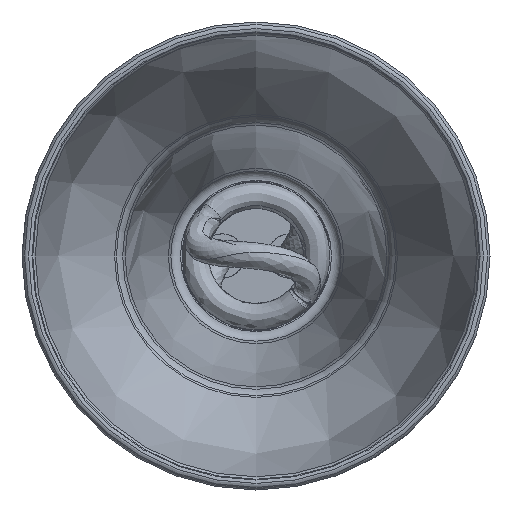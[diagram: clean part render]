
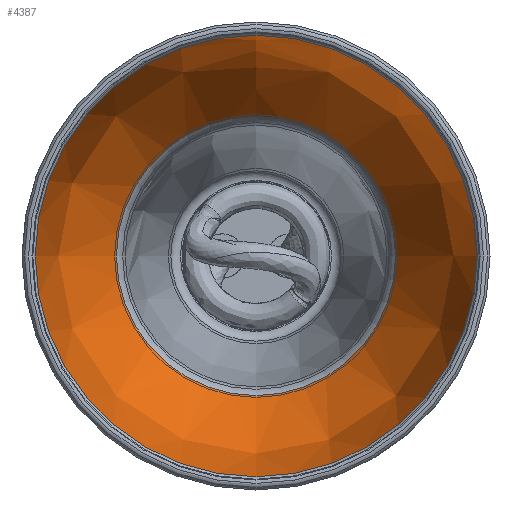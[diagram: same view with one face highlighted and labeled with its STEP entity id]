
A CAD part, front view. The second image highlights one B-rep face of the part: STEP entity #4387.
In plain terms, the highlighted free-form (B-spline) face has degree [2, 2] with [3, 9] control points.
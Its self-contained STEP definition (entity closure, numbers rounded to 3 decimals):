
#190=(
BOUNDED_SURFACE()
B_SPLINE_SURFACE(2,2,((#13137,#13138,#13139,#13140,#13141,#13142,#13143,
#13144,#13145),(#13146,#13147,#13148,#13149,#13150,#13151,#13152,#13153,
#13154),(#13155,#13156,#13157,#13158,#13159,#13160,#13161,#13162,#13163)),
 .UNSPECIFIED.,.F.,.T.,.F.)
B_SPLINE_SURFACE_WITH_KNOTS((3,3),(3,2,2,2,3),(-0.742,-0.039),
(-3.142,-1.571,0.,1.571,3.142),
 .UNSPECIFIED.)
GEOMETRIC_REPRESENTATION_ITEM()
RATIONAL_B_SPLINE_SURFACE(((1.,0.707,1.,0.707,1.,
0.707,1.,0.707,1.),(0.939,0.664,
0.939,0.664,0.939,0.664,
0.939,0.664,0.939),(1.,0.707,
1.,0.707,1.,0.707,1.,0.707,1.)))
REPRESENTATION_ITEM('')
SURFACE()
);
#557=FACE_OUTER_BOUND('',#863,.T.);
#863=EDGE_LOOP('',(#3851,#3852,#3853,#3854));
#1137=CIRCLE('',#4858,66.5);
#1139=CIRCLE('',#4860,42.04);
#1140=CIRCLE('',#4861,93.206);
#2074=VERTEX_POINT('',#13134);
#2075=VERTEX_POINT('',#13164);
#2678=EDGE_CURVE('',#2074,#2074,#1137,.T.);
#2680=EDGE_CURVE('',#2075,#2075,#1139,.T.);
#2681=EDGE_CURVE('',#2075,#2074,#1140,.T.);
#3851=ORIENTED_EDGE('',*,*,#2680,.F.);
#3852=ORIENTED_EDGE('',*,*,#2681,.T.);
#3853=ORIENTED_EDGE('',*,*,#2678,.T.);
#3854=ORIENTED_EDGE('',*,*,#2681,.F.);
#4387=ADVANCED_FACE('',(#557),#190,.T.);
#4858=AXIS2_PLACEMENT_3D('',#13135,#5973,#5974);
#4860=AXIS2_PLACEMENT_3D('',#13165,#5977,#5978);
#4861=AXIS2_PLACEMENT_3D('',#13166,#5979,#5980);
#5973=DIRECTION('center_axis',(0.,-1.,0.));
#5974=DIRECTION('ref_axis',(0.,0.,-1.));
#5977=DIRECTION('center_axis',(0.,-1.,0.));
#5978=DIRECTION('ref_axis',(0.,0.,-1.));
#5979=DIRECTION('center_axis',(1.,0.,0.));
#5980=DIRECTION('ref_axis',(0.,0.,1.));
#13134=CARTESIAN_POINT('',(0.285,-104.857,74.867));
#13135=CARTESIAN_POINT('Origin',(0.285,-104.857,8.367));
#13137=CARTESIAN_POINT('Ctrl Pts',(0.285,-45.518,
50.407));
#13138=CARTESIAN_POINT('Ctrl Pts',(-41.755,-45.518,
50.407));
#13139=CARTESIAN_POINT('Ctrl Pts',(-41.755,-45.518,
8.367));
#13140=CARTESIAN_POINT('Ctrl Pts',(-41.755,-45.518,
-33.672));
#13141=CARTESIAN_POINT('Ctrl Pts',(0.285,-45.518,
-33.672));
#13142=CARTESIAN_POINT('Ctrl Pts',(42.324,-45.518,-33.672));
#13143=CARTESIAN_POINT('Ctrl Pts',(42.324,-45.518,8.367));
#13144=CARTESIAN_POINT('Ctrl Pts',(42.324,-45.518,50.407));
#13145=CARTESIAN_POINT('Ctrl Pts',(0.285,-45.518,
50.407));
#13146=CARTESIAN_POINT('Ctrl Pts',(0.285,-70.702,
73.518));
#13147=CARTESIAN_POINT('Ctrl Pts',(-64.866,-70.702,
73.518));
#13148=CARTESIAN_POINT('Ctrl Pts',(-64.866,-70.702,
8.367));
#13149=CARTESIAN_POINT('Ctrl Pts',(-64.866,-70.702,
-56.783));
#13150=CARTESIAN_POINT('Ctrl Pts',(0.285,-70.702,
-56.783));
#13151=CARTESIAN_POINT('Ctrl Pts',(65.435,-70.702,-56.783));
#13152=CARTESIAN_POINT('Ctrl Pts',(65.435,-70.702,8.367));
#13153=CARTESIAN_POINT('Ctrl Pts',(65.435,-70.702,73.518));
#13154=CARTESIAN_POINT('Ctrl Pts',(0.285,-70.702,
73.518));
#13155=CARTESIAN_POINT('Ctrl Pts',(0.285,-104.857,
74.867));
#13156=CARTESIAN_POINT('Ctrl Pts',(-66.215,-104.857,
74.867));
#13157=CARTESIAN_POINT('Ctrl Pts',(-66.215,-104.857,
8.367));
#13158=CARTESIAN_POINT('Ctrl Pts',(-66.215,-104.857,
-58.133));
#13159=CARTESIAN_POINT('Ctrl Pts',(0.285,-104.857,
-58.133));
#13160=CARTESIAN_POINT('Ctrl Pts',(66.785,-104.857,-58.133));
#13161=CARTESIAN_POINT('Ctrl Pts',(66.785,-104.857,8.367));
#13162=CARTESIAN_POINT('Ctrl Pts',(66.785,-104.857,74.867));
#13163=CARTESIAN_POINT('Ctrl Pts',(0.285,-104.857,
74.867));
#13164=CARTESIAN_POINT('',(0.285,-45.518,50.407));
#13165=CARTESIAN_POINT('Origin',(0.285,-45.518,8.367));
#13166=CARTESIAN_POINT('Origin',(0.285,-108.536,-18.266));
